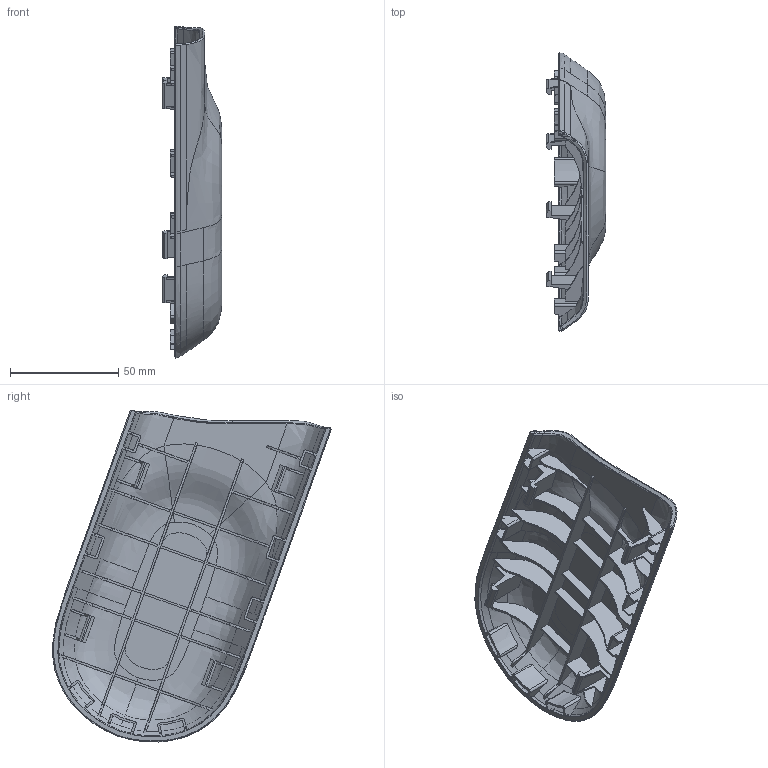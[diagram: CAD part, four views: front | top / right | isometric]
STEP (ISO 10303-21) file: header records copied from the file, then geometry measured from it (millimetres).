
FILE_DESCRIPTION((''),'2;1');
FILE_NAME('YC_SJ_ZS001589_01','2026-03-20T10:45:59',('casson.cai'),(''),'CREO PARAMETRIC BY PTC INC, 2022164','CREO PARAMETRIC BY PTC INC, 2022164','');
FILE_SCHEMA(('CONFIG_CONTROL_DESIGN'));
Products named in the file (1): YC_SJ_ZS001589_01
Bounding box: 27.55 x 128.4 x 153.04 mm (x, y, z)
Volume: 47044 mm3; surface area: 47812.9 mm2
Topology: 1 solids, 1 shells, 501 faces, 1468 edges, 971 vertices
Faces by surface type: plane 262, bspline 120, cylinder 58, extrusion 49, cone 12
Entity records: 44014 total; most frequent: CARTESIAN_POINT 32044, ORIENTED_EDGE 2936, DIRECTION 1738, EDGE_CURVE 1468, VERTEX_POINT 971, VECTOR 844, LINE 795, B_SPLINE_CURVE_WITH_KNOTS 607
